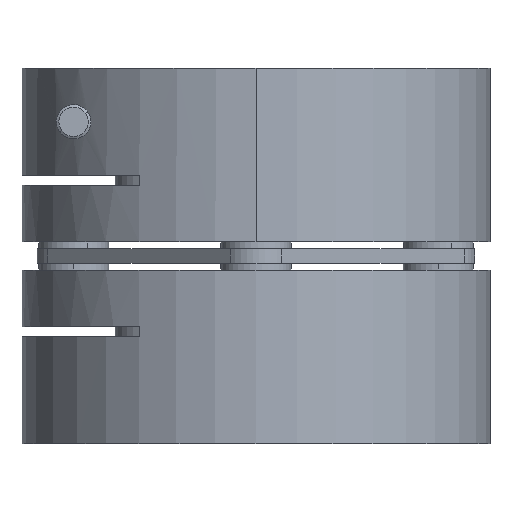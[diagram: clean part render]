
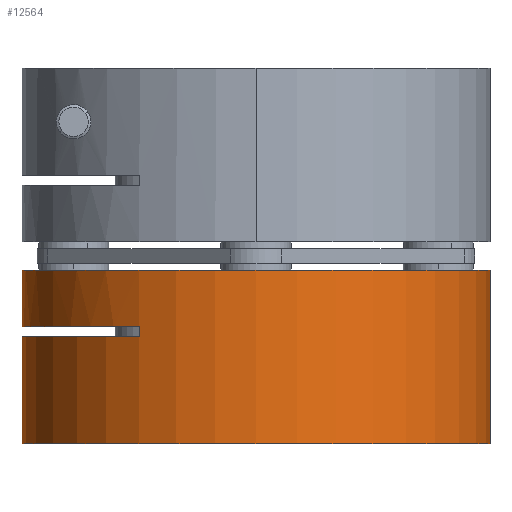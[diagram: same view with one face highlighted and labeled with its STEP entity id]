
A CAD part, left-side view. The second image highlights one B-rep face of the part: STEP entity #12564.
In plain terms, the highlighted cylindrical face has radius 34 mm (diameter 68 mm), a partial arc.
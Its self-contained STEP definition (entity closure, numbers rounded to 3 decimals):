
#115 = VECTOR ( 'NONE', #4607, 1000. ) ;
#307 = CIRCLE ( 'NONE', #3331, 34. ) ;
#627 = EDGE_CURVE ( 'NONE', #1528, #10333, #8955, .T. ) ;
#943 = ORIENTED_EDGE ( 'NONE', *, *, #6842, .F. ) ;
#987 = EDGE_LOOP ( 'NONE', ( #4141, #9966, #4125, #8842, #1361, #1439, #3339, #943 ) ) ;
#1240 = EDGE_CURVE ( 'NONE', #5765, #11805, #307, .T. ) ;
#1262 = DIRECTION ( 'NONE',  ( 0., 0., -1. ) ) ;
#1341 = CARTESIAN_POINT ( 'NONE',  ( 2.405, 67.451, 91.215 ) ) ;
#1361 = ORIENTED_EDGE ( 'NONE', *, *, #2771, .F. ) ;
#1395 = AXIS2_PLACEMENT_3D ( 'NONE', #6027, #12948, #7003 ) ;
#1439 = ORIENTED_EDGE ( 'NONE', *, *, #1240, .T. ) ;
#1528 = VERTEX_POINT ( 'NONE', #11760 ) ;
#1759 = CARTESIAN_POINT ( 'NONE',  ( 2.405, 67.451, 81.515 ) ) ;
#1805 = CARTESIAN_POINT ( 'NONE',  ( 2.405, 67.451, 83.015 ) ) ;
#2066 = CARTESIAN_POINT ( 'NONE',  ( 2.405, -0.549, 91.215 ) ) ;
#2109 = DIRECTION ( 'NONE',  ( 0., 0., 1. ) ) ;
#2226 = VERTEX_POINT ( 'NONE', #11321 ) ;
#2246 = CARTESIAN_POINT ( 'NONE',  ( 2.405, 33.451, 81.515 ) ) ;
#2382 = LINE ( 'NONE', #2393, #9995 ) ;
#2393 = CARTESIAN_POINT ( 'NONE',  ( 2.405, -0.549, 66.015 ) ) ;
#2771 = EDGE_CURVE ( 'NONE', #5765, #7762, #4382, .T. ) ;
#2838 = LINE ( 'NONE', #9519, #115 ) ;
#3113 = EDGE_CURVE ( 'NONE', #6723, #7762, #11204, .T. ) ;
#3191 = DIRECTION ( 'NONE',  ( 0., -1., 0. ) ) ;
#3269 = DIRECTION ( 'NONE',  ( 0., -1., 0. ) ) ;
#3331 = AXIS2_PLACEMENT_3D ( 'NONE', #7682, #7598, #7565 ) ;
#3339 = ORIENTED_EDGE ( 'NONE', *, *, #11690, .F. ) ;
#4125 = ORIENTED_EDGE ( 'NONE', *, *, #7772, .T. ) ;
#4141 = ORIENTED_EDGE ( 'NONE', *, *, #627, .F. ) ;
#4164 = CARTESIAN_POINT ( 'NONE',  ( 2.405, 33.451, 66.015 ) ) ;
#4382 = LINE ( 'NONE', #12551, #11962 ) ;
#4607 = DIRECTION ( 'NONE',  ( 0., 0., 1. ) ) ;
#4753 = AXIS2_PLACEMENT_3D ( 'NONE', #2246, #9220, #3269 ) ;
#5280 = EDGE_CURVE ( 'NONE', #8332, #1528, #10554, .T. ) ;
#5322 = CARTESIAN_POINT ( 'NONE',  ( 2.405, -0.549, 66.015 ) ) ;
#5618 = FACE_OUTER_BOUND ( 'NONE', #987, .T. ) ;
#5765 = VERTEX_POINT ( 'NONE', #1805 ) ;
#6027 = CARTESIAN_POINT ( 'NONE',  ( 2.405, 33.451, 91.215 ) ) ;
#6723 = VERTEX_POINT ( 'NONE', #2066 ) ;
#6842 = EDGE_CURVE ( 'NONE', #10333, #2226, #7463, .T. ) ;
#7003 = DIRECTION ( 'NONE',  ( 0., 1., 0. ) ) ;
#7276 = CARTESIAN_POINT ( 'NONE',  ( 2.405, 33.451, 66.015 ) ) ;
#7463 = CIRCLE ( 'NONE', #4753, 34. ) ;
#7565 = DIRECTION ( 'NONE',  ( 0., -1., 0. ) ) ;
#7598 = DIRECTION ( 'NONE',  ( 0., 0., 1. ) ) ;
#7682 = CARTESIAN_POINT ( 'NONE',  ( 2.405, 33.451, 83.015 ) ) ;
#7762 = VERTEX_POINT ( 'NONE', #1341 ) ;
#7772 = EDGE_CURVE ( 'NONE', #8332, #6723, #2382, .T. ) ;
#8255 = DIRECTION ( 'NONE',  ( 0., 1., 0. ) ) ;
#8298 = AXIS2_PLACEMENT_3D ( 'NONE', #4164, #2109, #3191 ) ;
#8332 = VERTEX_POINT ( 'NONE', #5322 ) ;
#8348 = DIRECTION ( 'NONE',  ( 0., 0., 1. ) ) ;
#8571 = DIRECTION ( 'NONE',  ( 0., 0., 1. ) ) ;
#8718 = CARTESIAN_POINT ( 'NONE',  ( 2.405, 67.451, 66.015 ) ) ;
#8842 = ORIENTED_EDGE ( 'NONE', *, *, #3113, .T. ) ;
#8955 = LINE ( 'NONE', #8718, #11306 ) ;
#9220 = DIRECTION ( 'NONE',  ( 0., 0., 1. ) ) ;
#9519 = CARTESIAN_POINT ( 'NONE',  ( -27.048, 50.438, 81.515 ) ) ;
#9609 = CYLINDRICAL_SURFACE ( 'NONE', #8298, 34. ) ;
#9629 = CARTESIAN_POINT ( 'NONE',  ( -27.048, 50.438, 83.015 ) ) ;
#9785 = DIRECTION ( 'NONE',  ( 0., 0., 1. ) ) ;
#9966 = ORIENTED_EDGE ( 'NONE', *, *, #5280, .F. ) ;
#9995 = VECTOR ( 'NONE', #8348, 1000. ) ;
#10333 = VERTEX_POINT ( 'NONE', #1759 ) ;
#10554 = CIRCLE ( 'NONE', #12095, 34. ) ;
#11204 = CIRCLE ( 'NONE', #1395, 34. ) ;
#11306 = VECTOR ( 'NONE', #9785, 1000. ) ;
#11321 = CARTESIAN_POINT ( 'NONE',  ( -27.048, 50.438, 81.515 ) ) ;
#11690 = EDGE_CURVE ( 'NONE', #2226, #11805, #2838, .T. ) ;
#11760 = CARTESIAN_POINT ( 'NONE',  ( 2.405, 67.451, 66.015 ) ) ;
#11805 = VERTEX_POINT ( 'NONE', #9629 ) ;
#11962 = VECTOR ( 'NONE', #8571, 1000. ) ;
#12095 = AXIS2_PLACEMENT_3D ( 'NONE', #7276, #1262, #8255 ) ;
#12551 = CARTESIAN_POINT ( 'NONE',  ( 2.405, 67.451, 66.015 ) ) ;
#12564 = ADVANCED_FACE ( 'NONE', ( #5618 ), #9609, .T. ) ;
#12948 = DIRECTION ( 'NONE',  ( 0., 0., -1. ) ) ;
